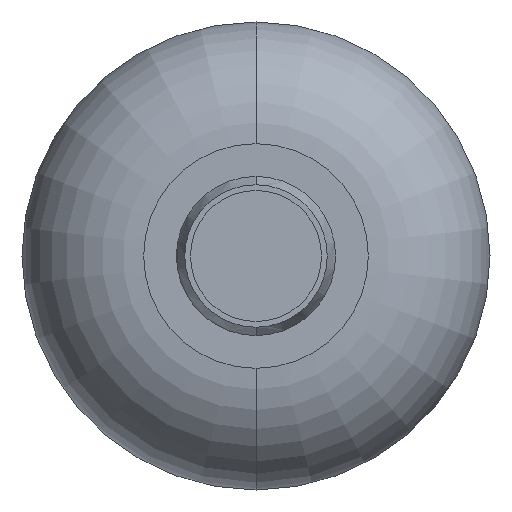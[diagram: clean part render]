
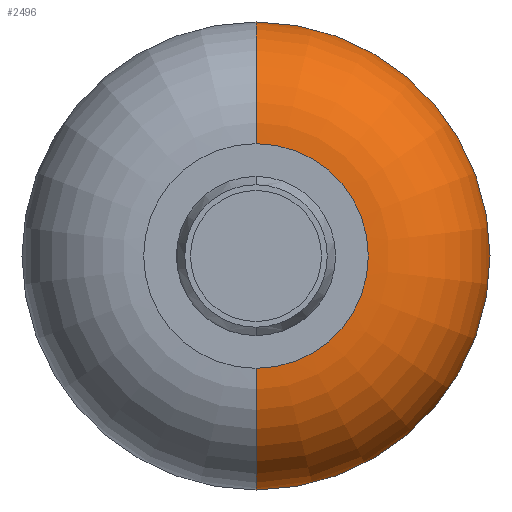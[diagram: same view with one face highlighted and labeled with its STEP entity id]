
A CAD part, front view. The second image highlights one B-rep face of the part: STEP entity #2496.
In plain terms, the highlighted toroidal (fillet/blend) face has major radius 120 mm and minor radius 130 mm.
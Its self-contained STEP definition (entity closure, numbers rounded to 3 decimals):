
#31 = AXIS2_PLACEMENT_3D ( 'NONE', #1657, #1479, #503 ) ;
#197 = DIRECTION ( 'NONE',  ( 0., 0., 1. ) ) ;
#240 = CARTESIAN_POINT ( 'NONE',  ( 0., -45., 250. ) ) ;
#245 = CARTESIAN_POINT ( 'NONE',  ( 0., -45., 120. ) ) ;
#338 = DIRECTION ( 'NONE',  ( 0., 0., 1. ) ) ;
#390 = CIRCLE ( 'NONE', #31, 120. ) ;
#503 = DIRECTION ( 'NONE',  ( 0., 0., 1. ) ) ;
#619 = ORIENTED_EDGE ( 'NONE', *, *, #628, .T. ) ;
#628 = EDGE_CURVE ( 'NONE', #1652, #1262, #2062, .T. ) ;
#649 = DIRECTION ( 'NONE',  ( 0., 1., 0. ) ) ;
#756 = AXIS2_PLACEMENT_3D ( 'NONE', #2326, #969, #1327 ) ;
#768 = EDGE_CURVE ( 'NONE', #1799, #882, #2153, .T. ) ;
#783 = CARTESIAN_POINT ( 'NONE',  ( 0., -175., -120. ) ) ;
#799 = EDGE_CURVE ( 'NONE', #1799, #1652, #390, .T. ) ;
#882 = VERTEX_POINT ( 'NONE', #240 ) ;
#967 = AXIS2_PLACEMENT_3D ( 'NONE', #1096, #649, #1430 ) ;
#969 = DIRECTION ( 'NONE',  ( 1., 0., 0. ) ) ;
#1096 = CARTESIAN_POINT ( 'NONE',  ( 0., -45., 0. ) ) ;
#1123 = CARTESIAN_POINT ( 'NONE',  ( 0., -45., -250. ) ) ;
#1262 = VERTEX_POINT ( 'NONE', #1123 ) ;
#1327 = DIRECTION ( 'NONE',  ( 0., 0., -1. ) ) ;
#1355 = FACE_OUTER_BOUND ( 'NONE', #1464, .T. ) ;
#1421 = ORIENTED_EDGE ( 'NONE', *, *, #768, .F. ) ;
#1430 = DIRECTION ( 'NONE',  ( 0., 0., 1. ) ) ;
#1432 = ORIENTED_EDGE ( 'NONE', *, *, #799, .T. ) ;
#1461 = CIRCLE ( 'NONE', #967, 250. ) ;
#1464 = EDGE_LOOP ( 'NONE', ( #1432, #619, #2401, #1421 ) ) ;
#1479 = DIRECTION ( 'NONE',  ( 0., 1., 0. ) ) ;
#1567 = CARTESIAN_POINT ( 'NONE',  ( 0., -175., 120. ) ) ;
#1582 = AXIS2_PLACEMENT_3D ( 'NONE', #245, #1902, #338 ) ;
#1652 = VERTEX_POINT ( 'NONE', #783 ) ;
#1657 = CARTESIAN_POINT ( 'NONE',  ( 0., -175., 0. ) ) ;
#1669 = AXIS2_PLACEMENT_3D ( 'NONE', #2132, #1945, #197 ) ;
#1799 = VERTEX_POINT ( 'NONE', #1567 ) ;
#1899 = EDGE_CURVE ( 'NONE', #882, #1262, #1461, .T. ) ;
#1902 = DIRECTION ( 'NONE',  ( -1., 0., 0. ) ) ;
#1945 = DIRECTION ( 'NONE',  ( 0., 1., 0. ) ) ;
#2062 = CIRCLE ( 'NONE', #756, 130. ) ;
#2132 = CARTESIAN_POINT ( 'NONE',  ( 0., -45., 0. ) ) ;
#2153 = CIRCLE ( 'NONE', #1582, 130. ) ;
#2326 = CARTESIAN_POINT ( 'NONE',  ( 0., -45., -120. ) ) ;
#2401 = ORIENTED_EDGE ( 'NONE', *, *, #1899, .F. ) ;
#2433 = TOROIDAL_SURFACE ( 'NONE', #1669, 120., 130. ) ;
#2496 = ADVANCED_FACE ( 'NONE', ( #1355 ), #2433, .T. ) ;
